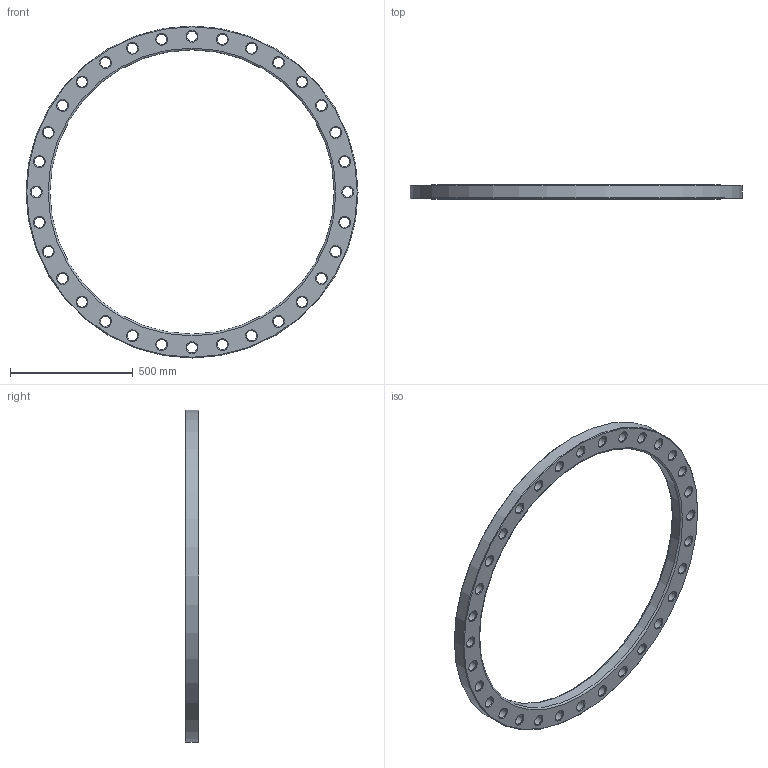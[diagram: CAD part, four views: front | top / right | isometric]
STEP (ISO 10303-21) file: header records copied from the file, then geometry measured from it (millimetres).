
FILE_DESCRIPTION(/* description */ ('Unknown'),/* implementation_level */ '2;1');
FILE_NAME(/* name */ 'FZ1100C',/* time_stamp */ '2021-03-15T12:36:13+01:00',/* author */ ('Unknown'),/* organization */ ('Unknown'),/* preprocessor_version */ 'ST-DEVELOPER v16.7',/* originating_system */ 'Solid Edge',/* authorisation */ 'Unknown');
FILE_SCHEMA (('AUTOMOTIVE_DESIGN {1 0 10303 214 3 1 1}'));
Length unit declared in the file: millimetre
Products named in the file (1): FZ1100C
Bounding box: 1355 x 56 x 1355 mm (x, y, z)
Volume: 18932391.2 mm3; surface area: 1309670.3 mm2
Topology: 1 solids, 1 shells, 104 faces, 334 edges, 232 vertices
Faces by surface type: cone 66, cylinder 34, plane 2, torus 2
Full cylindrical faces by diameter (mm): 42 x32, 1160 x1, 1355 x1
Entity records: 2566 total; most frequent: DIRECTION 482, CARTESIAN_POINT 377, ORIENTED_EDGE 272, EDGE_LOOP 272, FACE_BOUND 272, AXIS2_PLACEMENT_3D 241, EDGE_CURVE 136, VERTEX_POINT 136
